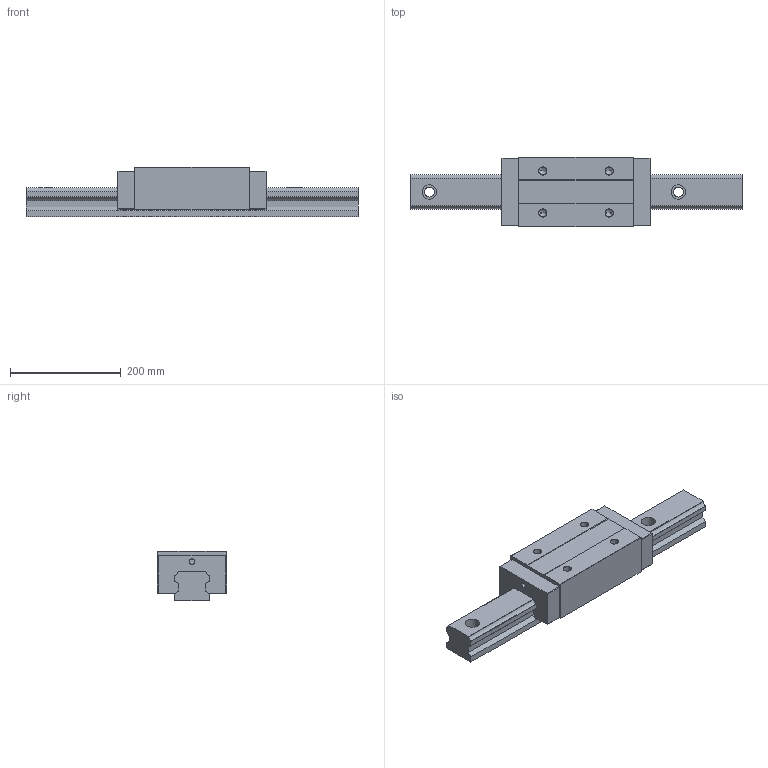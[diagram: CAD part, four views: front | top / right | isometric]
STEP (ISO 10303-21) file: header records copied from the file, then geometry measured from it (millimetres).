
FILE_DESCRIPTION (( 'STEP AP203' ), '1' );
FILE_NAME ('TRH65VE-ZN.STEP', '2023-02-07T03:14:42', ( '' ), ( '' ), 'SwSTEP 2.0', 'SolidWorks 2019', '' );
FILE_SCHEMA (( 'CONFIG_CONTROL_DESIGN' ));
Length unit declared in the file: millimetre
Products named in the file (1): TRH65VE-ZN
Bounding box: 600 x 126 x 90 mm (x, y, z)
Volume: 3605112.1 mm3; surface area: 310448.7 mm2
Topology: 2 solids, 2 shells, 134 faces, 340 edges, 212 vertices
Faces by surface type: plane 70, cylinder 48, cone 16
Entity records: 4047 total; most frequent: DIRECTION 706, CARTESIAN_POINT 679, ORIENTED_EDGE 664, EDGE_CURVE 332, AXIS2_PLACEMENT_3D 239, LINE 228, VECTOR 228, VERTEX_POINT 212
